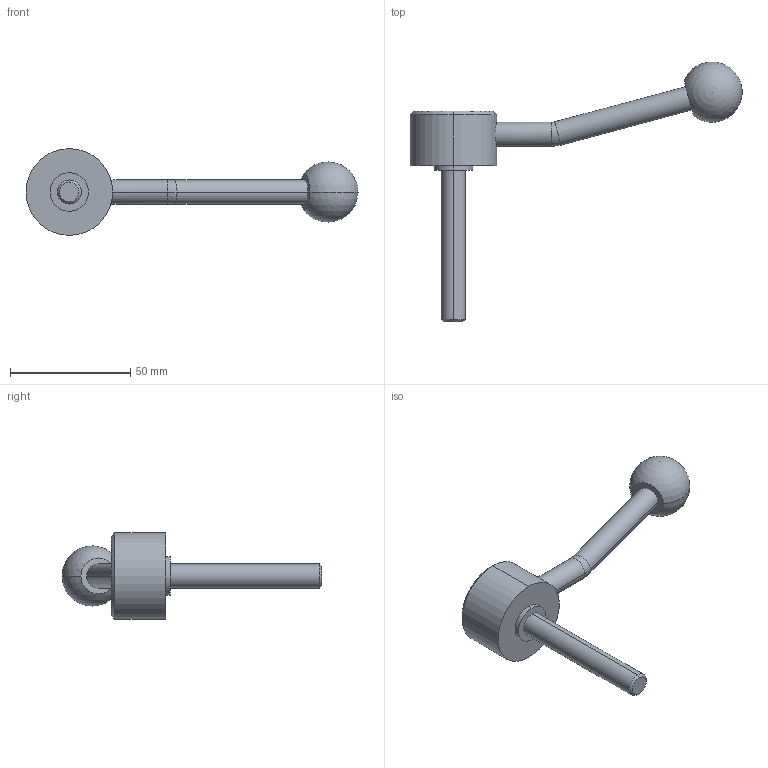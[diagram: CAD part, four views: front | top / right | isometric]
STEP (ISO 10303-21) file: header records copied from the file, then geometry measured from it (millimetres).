
FILE_DESCRIPTION (( 'STEP AP214' ), '1' );
FILE_NAME ('125.5-36-M10-63-E.step', '2020-02-18T11:32:04', ( '' ), ( '' ), 'SwSTEP 2.0', 'SolidWorks 2019', '' );
FILE_SCHEMA (( 'AUTOMOTIVE_DESIGN' ));
Length unit declared in the file: millimetre
Products named in the file (1): 125.5-36-M10-63-E
Bounding box: 137.95 x 108 x 36 mm (x, y, z)
Volume: 42599.9 mm3; surface area: 10916.9 mm2
Topology: 1 solids, 1 shells, 26 faces, 55 edges, 34 vertices
Faces by surface type: cylinder 12, plane 6, cone 4, torus 2, sphere 2
Entity records: 840 total; most frequent: CARTESIAN_POINT 182, DIRECTION 134, ORIENTED_EDGE 100, AXIS2_PLACEMENT_3D 59, EDGE_CURVE 50, CIRCLE 32, VERTEX_POINT 31, EDGE_LOOP 31
